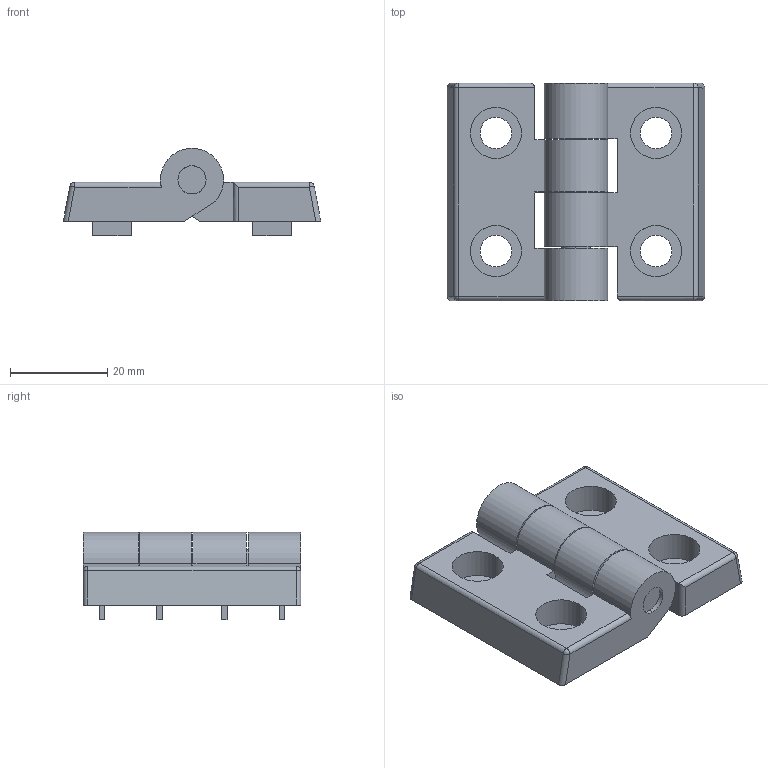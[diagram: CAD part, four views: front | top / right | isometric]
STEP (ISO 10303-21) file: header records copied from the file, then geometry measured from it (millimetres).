
FILE_DESCRIPTION (( 'STEP AP214' ), '1' );
FILE_NAME ('SNSD.30.51.03. Ïåòëÿ ïëàñòèêîâàÿ 30(E20).STEP', '2014-11-27T11:02:34', ( 'XTreme.ws' ), ( 'XTreme.ws' ), 'SwSTEP 2.0', 'SolidWorks 2014', '' );
FILE_SCHEMA (( 'AUTOMOTIVE_DESIGN' ));
Length unit declared in the file: millimetre
Products named in the file (4): SNSD.30.51.03. Ïåòëÿ ïëàñòèêîâàÿ 30(E20); SNSD.30.51.00. Ïåòëÿ ïëàñòèêîâàÿ (B18)E20_00; SNSD.30.51.00. Ïåòëÿ ïëàñòèêîâàÿ ìàëàÿ ÷àñòü(B18)E20_00; SNSD.30.51.00. ﾏ琿褻 (B18)E20_00
Assembly tree (3 placements, depth 2):
  SNSD.30.51.03. Ïåòëÿ ïëàñòèêîâàÿ 30(E20)
    SNSD.30.51.00. Ïåòëÿ ïëàñòèêîâàÿ (B18)E20_00
    SNSD.30.51.00. Ïåòëÿ ïëàñòèêîâàÿ ìàëàÿ ÷àñòü(B18)E20_00
    SNSD.30.51.00. ﾏ琿褻 (B18)E20_00
Bounding box: 52.96 x 44.8 x 18 mm (x, y, z)
Volume: 17673.7 mm3; surface area: 10435 mm2
Topology: 3 solids, 3 shells, 124 faces, 308 edges, 198 vertices
Faces by surface type: plane 70, cylinder 50, sphere 4
Entity records: 3846 total; most frequent: CARTESIAN_POINT 668, DIRECTION 646, ORIENTED_EDGE 608, EDGE_CURVE 304, AXIS2_PLACEMENT_3D 220, VECTOR 206, LINE 206, VERTEX_POINT 198
